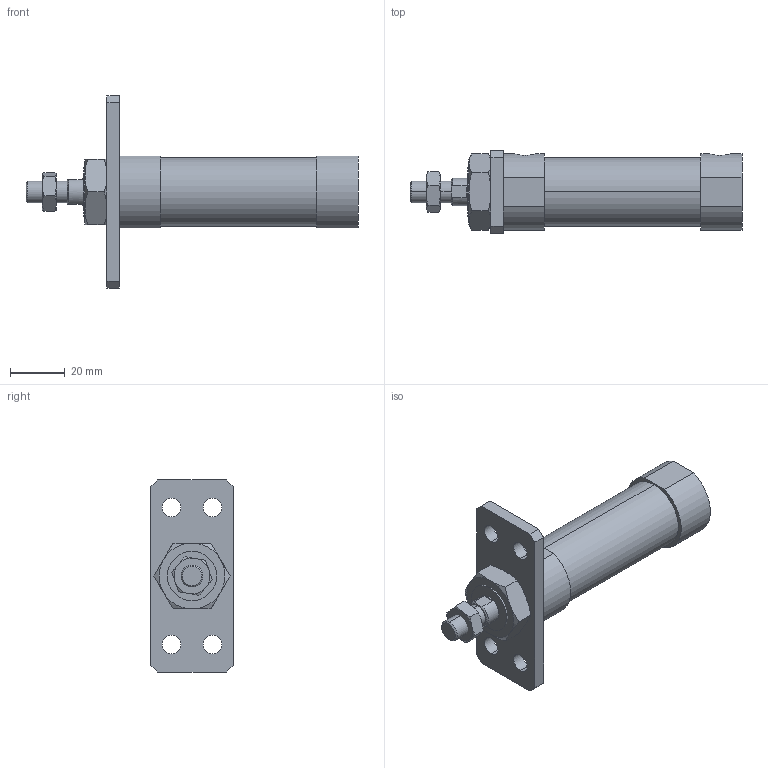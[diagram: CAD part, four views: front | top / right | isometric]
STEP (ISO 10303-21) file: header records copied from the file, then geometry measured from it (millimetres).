
FILE_DESCRIPTION (( 'STEP AP203' ), '1' );
FILE_NAME ('JGND2-20-25-A.STEP', '2016-08-04T02:21:09', ( '' ), ( '' ), 'SwSTEP 2.0', 'SolidWorks 2014', '' );
FILE_SCHEMA (( 'CONFIG_CONTROL_DESIGN' ));
Length unit declared in the file: millimetre
Products named in the file (5): J#2-20-A; J#2-20-25(P); JGND2-20-25-A
Assembly tree (4 placements, depth 2):
  JGND2-20-25-A
    J#2-20-25(P)
    (unnamed)
    (unnamed)
    J#2-20-A
Bounding box: 121 x 30 x 70 mm (x, y, z)
Volume: 59328 mm3; surface area: 17526.6 mm2
Topology: 4 solids, 4 shells, 104 faces, 236 edges, 148 vertices
Faces by surface type: plane 44, cylinder 32, torus 24, cone 4
Entity records: 3803 total; most frequent: CARTESIAN_POINT 951, DIRECTION 494, ORIENTED_EDGE 472, EDGE_CURVE 236, AXIS2_PLACEMENT_3D 203, VERTEX_POINT 148, EDGE_LOOP 126, FACE_OUTER_BOUND 104
